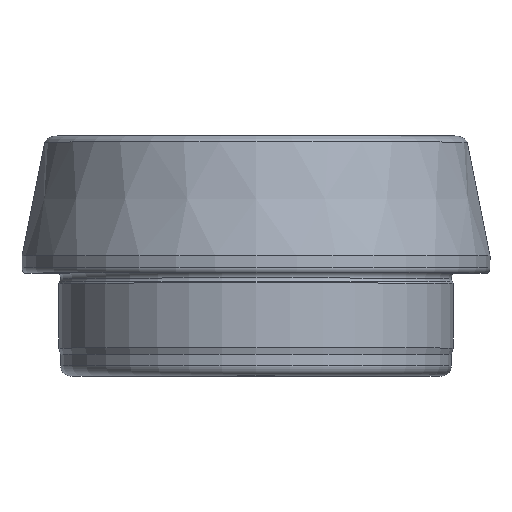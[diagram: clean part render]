
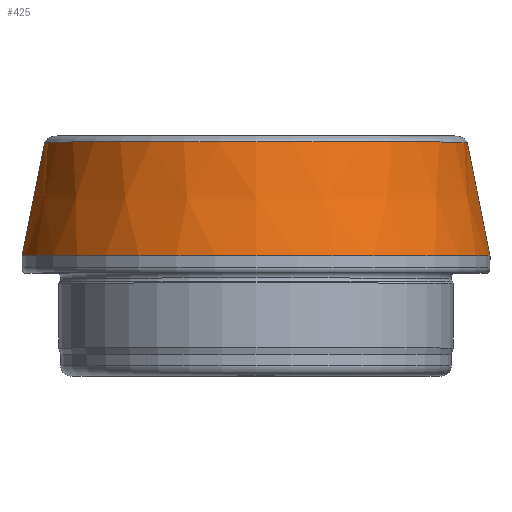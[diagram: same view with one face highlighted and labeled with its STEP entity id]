
A CAD part, top view. The second image highlights one B-rep face of the part: STEP entity #425.
In plain terms, the highlighted conical face has half-angle 11.31 degrees and reference radius 200.001 mm.
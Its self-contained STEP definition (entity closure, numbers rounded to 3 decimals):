
#34 = CARTESIAN_POINT ( 'NONE',  ( -13.65, 7., 0. ) ) ;
#38 = CARTESIAN_POINT ( 'NONE',  ( 13.65, 7., 0. ) ) ;
#65 = DIRECTION ( 'NONE',  ( 0.196, -0.981, 0. ) ) ;
#66 = CARTESIAN_POINT ( 'NONE',  ( 0., 75.25, 0. ) ) ;
#69 = LINE ( 'NONE', #66, #94 ) ;
#84 = AXIS2_PLACEMENT_3D ( 'NONE', #881, #736, #728 ) ;
#89 = DIRECTION ( 'NONE',  ( 1., 0., 0. ) ) ;
#92 = DIRECTION ( 'NONE',  ( 0., 1., 0. ) ) ;
#94 = VECTOR ( 'NONE', #65, 1000. ) ;
#95 = CARTESIAN_POINT ( 'NONE',  ( 0., 7., 0. ) ) ;
#108 = EDGE_CURVE ( 'NONE', #249, #245, #346, .T. ) ;
#195 = EDGE_CURVE ( 'NONE', #353, #245, #69, .T. ) ;
#221 = EDGE_LOOP ( 'NONE', ( #795, #785, #472, #806 ) ) ;
#245 = VERTEX_POINT ( 'NONE', #38 ) ;
#249 = VERTEX_POINT ( 'NONE', #34 ) ;
#291 = CARTESIAN_POINT ( 'NONE',  ( 12.322, 13.641, 0. ) ) ;
#294 = CARTESIAN_POINT ( 'NONE',  ( -12.322, 13.641, 0. ) ) ;
#346 = CIRCLE ( 'NONE', #731, 13.65 ) ;
#349 = CONICAL_SURFACE ( 'NONE', #84, 200.001, 0.197 ) ;
#350 = VERTEX_POINT ( 'NONE', #294 ) ;
#353 = VERTEX_POINT ( 'NONE', #291 ) ;
#425 = ADVANCED_FACE ( 'NONE', ( #955 ), #349, .T. ) ;
#472 = ORIENTED_EDGE ( 'NONE', *, *, #108, .T. ) ;
#506 = LINE ( 'NONE', #513, #778 ) ;
#513 = CARTESIAN_POINT ( 'NONE',  ( 0., 75.25, 0. ) ) ;
#515 = DIRECTION ( 'NONE',  ( -0.196, -0.981, 0. ) ) ;
#549 = CARTESIAN_POINT ( 'NONE',  ( 0., 13.641, 0. ) ) ;
#553 = DIRECTION ( 'NONE',  ( 0., 1., 0. ) ) ;
#555 = DIRECTION ( 'NONE',  ( 1., 0., 0. ) ) ;
#606 = AXIS2_PLACEMENT_3D ( 'NONE', #549, #553, #555 ) ;
#699 = EDGE_CURVE ( 'NONE', #350, #249, #506, .T. ) ;
#728 = DIRECTION ( 'NONE',  ( 1., 0., 0. ) ) ;
#731 = AXIS2_PLACEMENT_3D ( 'NONE', #95, #92, #89 ) ;
#736 = DIRECTION ( 'NONE',  ( 0., -1., 0. ) ) ;
#743 = EDGE_CURVE ( 'NONE', #350, #353, #962, .T. ) ;
#778 = VECTOR ( 'NONE', #515, 1000. ) ;
#785 = ORIENTED_EDGE ( 'NONE', *, *, #699, .T. ) ;
#795 = ORIENTED_EDGE ( 'NONE', *, *, #743, .F. ) ;
#806 = ORIENTED_EDGE ( 'NONE', *, *, #195, .F. ) ;
#881 = CARTESIAN_POINT ( 'NONE',  ( 0., -924.75, 0. ) ) ;
#955 = FACE_OUTER_BOUND ( 'NONE', #221, .T. ) ;
#962 = CIRCLE ( 'NONE', #606, 12.322 ) ;
